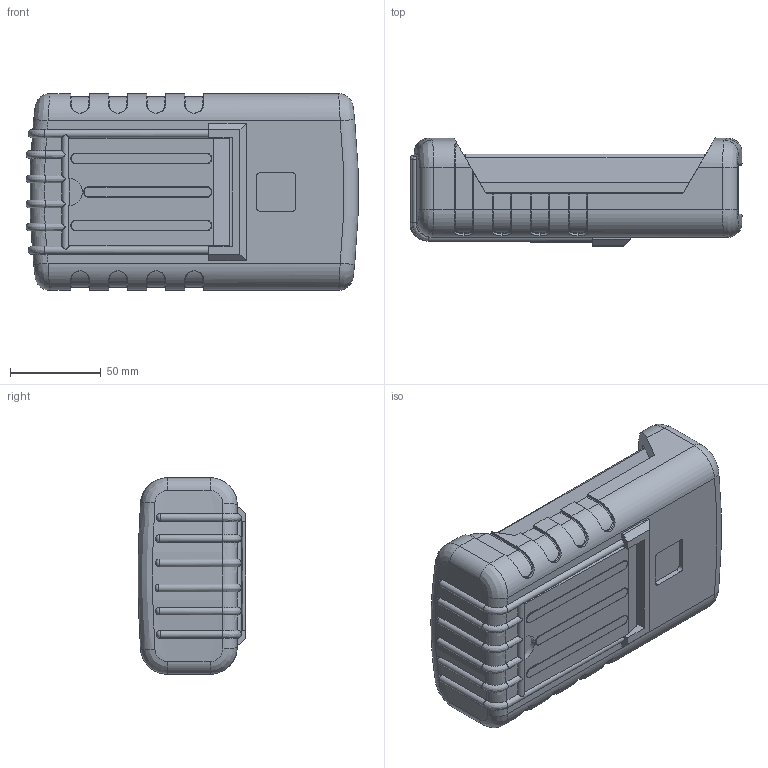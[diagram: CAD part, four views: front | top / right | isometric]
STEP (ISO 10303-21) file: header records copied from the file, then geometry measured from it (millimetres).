
FILE_DESCRIPTION (( 'STEP AP214' ), '1' );
FILE_NAME ('91-42-29V-E-R.STEP', '2020-10-17T15:34:28', ( 'Rudy' ), ( '' ), 'SwSTEP 2.0', 'SolidWorks 2014', '' );
FILE_SCHEMA (( 'AUTOMOTIVE_DESIGN' ));
Length unit declared in the file: millimetre
Products named in the file (9): 29V door; 91 LCD Top; 90 LCD Expander; 90-29V Shallow; 91-42-29V-E-R; 90 RBE Boot; RE 90 stand; 90 PCB 29V-4AA
Assembly tree (8 placements, depth 3):
  91-42-29V-E-R
    90-29V Shallow
    90 LCD Expander
    91 LCD Top
    29V door
    90 PCB 29V-4AA
    90 RBE Boot
      90 RBE Boot
      RE 90 stand
Bounding box: 183.26 x 59.56 x 108.46 mm (x, y, z)
Volume: 403057.6 mm3; surface area: 215882.9 mm2
Topology: 7 solids, 7 shells, 1180 faces, 3147 edges, 2011 vertices
Faces by surface type: plane 629, cylinder 327, bspline 76, cone 68, torus 65, sphere 15
Entity records: 43504 total; most frequent: CARTESIAN_POINT 14150, ORIENTED_EDGE 6250, DIRECTION 5862, EDGE_CURVE 3125, VERTEX_POINT 2003, AXIS2_PLACEMENT_3D 1962, VECTOR 1938, LINE 1938
